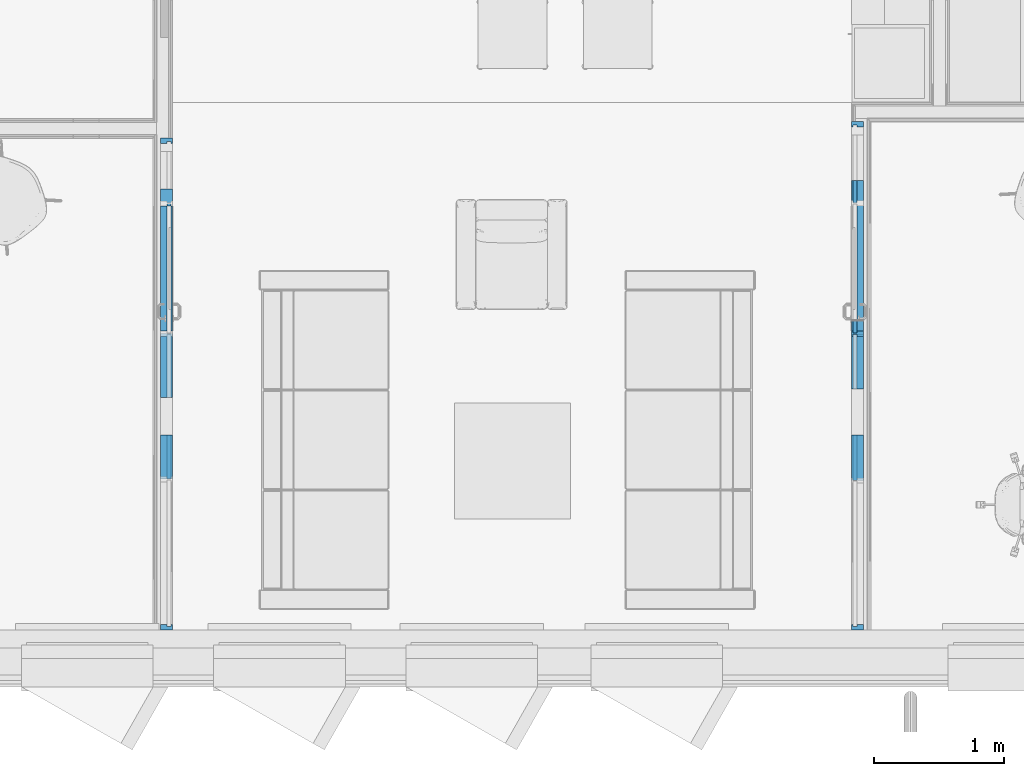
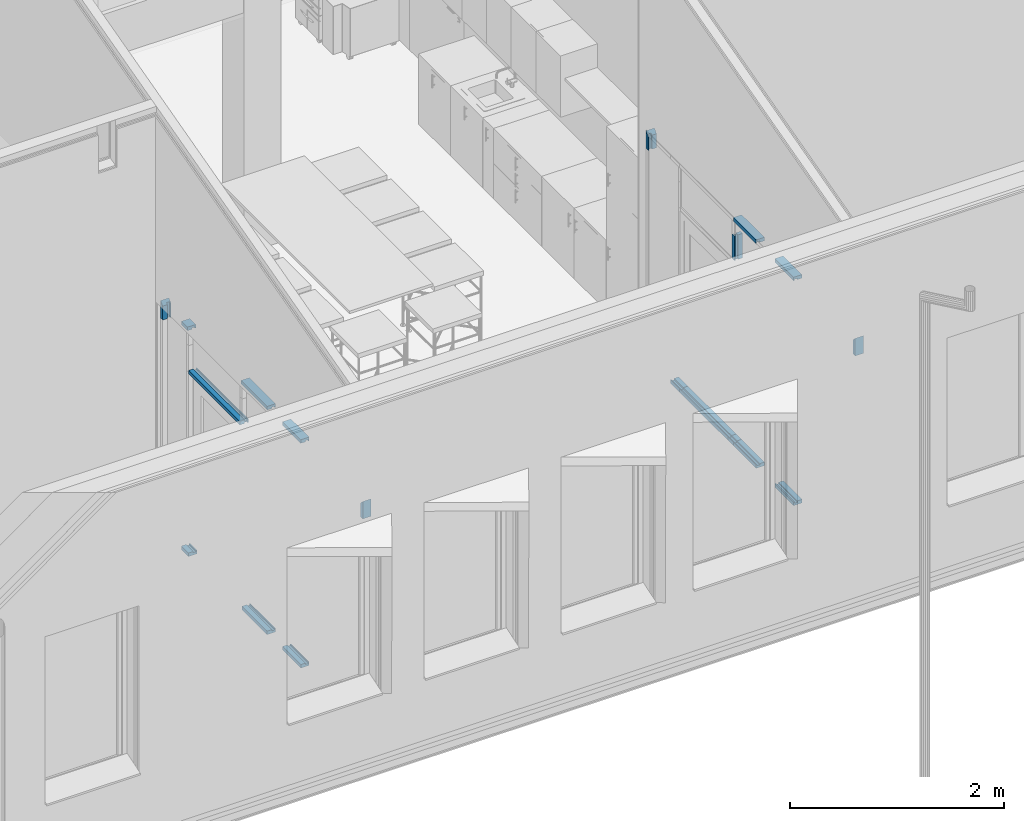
# One storey, part 33 of 153: 19 members, 2 elements without a shape of their own.
"""IFC2X3 building model written with IfcOpenShell, lengths in millimetres."""

from ifc_helpers import new_model, entity, si_unit, converted_unit, derived_unit, money_unit, direction, frame, origin_with_axes, place, context, subcontext, project, spatial, faceted_brep, material, type_object, element, aggregate, save


model = new_model("IFC2X3")

# Units and contexts
model_context = context("Model", 3, precision=0.01, world=origin_with_axes(), true_north=direction((0.0, 1.0)))
body_context = subcontext(model_context, "Body", "Model", "MODEL_VIEW")
ifc_project = project(units=[si_unit("LENGTHUNIT", "METRE", prefix="MILLI"), si_unit("AREAUNIT", "SQUARE_METRE"), si_unit("VOLUMEUNIT", "CUBIC_METRE"), converted_unit("PLANEANGLEUNIT", "DEGREE", entity("IfcPlaneAngleMeasure", 0.0174532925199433), si_unit("PLANEANGLEUNIT", "RADIAN"), dimensions=[0, 0, 0, 0, 0, 0, 0]), money_unit("EUR"), converted_unit("TIMEUNIT", "Year", entity("IfcTimeMeasure", 31557600.0), si_unit("TIMEUNIT", "SECOND"), dimensions=[0, 0, 1, 0, 0, 0, 0]), si_unit("MASSUNIT", "GRAM", prefix="KILO"), si_unit("THERMODYNAMICTEMPERATUREUNIT", "DEGREE_CELSIUS"), si_unit("LUMINOUSINTENSITYUNIT", "LUMEN"), si_unit("ENERGYUNIT", "JOULE", prefix="MEGA"), derived_unit("THERMALCONDUCTANCEUNIT", [(si_unit("POWERUNIT", "WATT"), 1), (si_unit("LENGTHUNIT", "METRE"), -1), (si_unit("THERMODYNAMICTEMPERATUREUNIT", "KELVIN"), -1)]), derived_unit("SPECIFICHEATCAPACITYUNIT", [(si_unit("ENERGYUNIT", "JOULE"), 1), (si_unit("MASSUNIT", "GRAM", prefix="KILO"), -1), (si_unit("THERMODYNAMICTEMPERATUREUNIT", "KELVIN"), -1)]), derived_unit("MASSDENSITYUNIT", [(si_unit("MASSUNIT", "GRAM", prefix="KILO"), 1), (si_unit("VOLUMEUNIT", "CUBIC_METRE"), -1)])], contexts=[model_context])

# Site, building, storey
site_placement = place(None, frame((0.0, 0.0, 8650.0), z_axis=(0.0, 0.0, 1.0), x_axis=(1.0, 0.0, 0.0)))
site = spatial("IfcSite", under=ifc_project, at=site_placement, Name="43301:001:0844", CompositionType="ELEMENT")
building_placement = place(site_placement, origin_with_axes())
building = spatial("IfcBuilding", under=site, at=building_placement, Name="Kuressaare Ametikooli tuulikute mehaanikute õppekorpus", CompositionType="ELEMENT")
storey_placement = place(building_placement, frame((0.0, 0.0, 4100.0), z_axis=(0.0, 0.0, 1.0), x_axis=(1.0, 0.0, 0.0)))
storey = spatial("IfcBuildingStorey", under=building, at=storey_placement, Name="2.korrus", CompositionType="ELEMENT", Elevation=4100.0)

# Curtain wall, members
curtain_wall_type = type_object("IfcCurtainWallType", Name="Curtain Wall Type", PredefinedType="NOTDEFINED")
curtain_wall_1_placement = place(storey_placement, frame((122879.3962682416, 12626.24529387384, 0.0), z_axis=(0.0, 0.0, 1.0), x_axis=(1.0, 0.0, 0.0)))
curtain_wall_1 = element("IfcCurtainWall", 1, at=curtain_wall_1_placement, inside=storey, type_object=curtain_wall_type, Name="PKF-3")
ifc_material = material(Name="Aluminium")
member_type_1 = type_object("IfcMemberType", Name="Boundary Frame 40 x 90", PredefinedType="NOTDEFINED")
member_1_placement = place(curtain_wall_1_placement, frame((0.0, -2345.882436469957, 2600.0), z_axis=(0.0, 1.0, 0.0), x_axis=(0.0, 0.0, 1.0)))
member_1 = element("IfcMember", 2, at=member_1_placement, type_object=member_type_1, material=ifc_material, context=body_context, shape_type="Brep", body=[
    faceted_brep([(-25.00000000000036, -15.00000000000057, 340.8978987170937), (-40.00000000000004, -15.00000000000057, 340.8978987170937), (-40.00000000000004, -64.99999999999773, 340.8978987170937), (0.0, -64.99999999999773, 340.8978987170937), (0.0, 0.0, 340.8978987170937), (0.0, 25.00000000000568, 340.8978987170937), (-40.00000000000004, 25.00000000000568, 340.8978987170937), (-40.00000000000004, 15.00000000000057, 340.8978987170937), (-25.00000000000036, 15.00000000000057, 340.8978987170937), (-25.00000000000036, -15.00000000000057, 0.0), (-40.00000000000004, -15.00000000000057, 0.0), (-40.00000000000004, -64.99999999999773, 0.0), (0.0, -64.99999999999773, 0.0), (0.0, 0.0, 0.0), (0.0, 25.00000000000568, 0.0), (-40.00000000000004, 25.00000000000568, 0.0), (-40.00000000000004, 15.00000000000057, 0.0), (-25.00000000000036, 15.00000000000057, 0.0)], [[[0, 1, 2, 3, 4, 5, 6, 7, 8]], [[0, 9, 10, 1]], [[10, 11, 2, 1]], [[11, 12, 3, 2]], [[12, 13, 4, 3]], [[13, 14, 5, 4]], [[14, 15, 6, 5]], [[7, 6, 15, 16]], [[16, 17, 8, 7]], [[8, 17, 9, 0]], [[9, 17, 16, 15, 14, 13, 12, 11, 10]]]),
])
member_2_placement = place(curtain_wall_1_placement, frame((0.0, -229.3563835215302, 2600.0), z_axis=(0.0, 1.0, 0.0), x_axis=(0.0, 0.0, 1.0)))
member_2 = element("IfcMember", 3, at=member_2_placement, type_object=member_type_1, material=ifc_material, context=body_context, shape_type="Brep", body=[
    faceted_brep([(-25.00000000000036, -15.00000000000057, 111.4204929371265), (-40.00000000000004, -15.00000000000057, 111.4204929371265), (-40.00000000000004, -64.99999999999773, 111.4204929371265), (0.0, -64.99999999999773, 111.4204929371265), (0.0, 0.0, 111.4204929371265), (0.0, 25.00000000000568, 111.4204929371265), (-40.00000000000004, 25.00000000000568, 111.4204929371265), (-40.00000000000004, 15.00000000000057, 111.4204929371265), (-25.00000000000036, 15.00000000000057, 111.4204929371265), (-25.00000000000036, -15.00000000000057, 0.0), (-40.00000000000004, -15.00000000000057, 0.0), (-40.00000000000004, -64.99999999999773, 0.0), (0.0, -64.99999999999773, 0.0), (0.0, 0.0, 0.0), (0.0, 25.00000000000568, 0.0), (-40.00000000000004, 25.00000000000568, 0.0), (-40.00000000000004, 15.00000000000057, 0.0), (-25.00000000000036, 15.00000000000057, 0.0)], [[[0, 1, 2, 3, 4, 5, 6, 7, 8]], [[0, 9, 10, 1]], [[10, 11, 2, 1]], [[11, 12, 3, 2]], [[12, 13, 4, 3]], [[13, 14, 5, 4]], [[14, 15, 6, 5]], [[7, 6, 15, 16]], [[16, 17, 8, 7]], [[8, 17, 9, 0]], [[9, 17, 16, 15, 14, 13, 12, 11, 10]]]),
])
member_3_placement = place(curtain_wall_1_placement, frame((0.0, -3502.406722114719, 2600.0), z_axis=(0.0, -5.219556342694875e-08, -0.9999999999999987), x_axis=(0.0, 0.9999999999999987, -5.219556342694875e-08)))
member_3 = element("IfcMember", 4, at=member_3_placement, type_object=member_type_1, material=ifc_material, context=body_context, shape_type="Brep", body=[
    faceted_brep([(25.00001043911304, -15.00000000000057, 199.9999997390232), (25.00001043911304, 15.00000000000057, 199.9999997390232), (40.00001043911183, 15.00000000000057, 199.9999989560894), (40.00001043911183, 25.00000000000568, 199.9999989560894), (1.043911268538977e-05, 25.00000000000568, 200.0000010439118), (1.043911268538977e-05, 0.0, 200.0000010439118), (1.043911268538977e-05, -64.99999999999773, 200.0000010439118), (40.00001043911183, -64.99999999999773, 199.9999989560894), (40.00001043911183, -15.00000000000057, 199.9999989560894), (25.000001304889, -15.00000000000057, 24.99999739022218), (25.000001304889, 15.00000000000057, 24.99999739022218), (40.00000208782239, 15.00000000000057, 39.99999582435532), (40.00000208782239, 25.00000000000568, 39.99999582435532), (0.0, 25.00000000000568, 0.0), (0.0, 0.0, 0.0), (0.0, -64.99999999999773, 0.0), (40.00000208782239, -64.99999999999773, 39.99999582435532), (40.00000208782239, -15.00000000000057, 39.99999582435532)], [[[0, 1, 2, 3, 4, 5, 6, 7, 8]], [[1, 0, 9, 10]], [[11, 2, 1, 10]], [[2, 11, 12, 3]], [[4, 3, 12, 13]], [[5, 4, 13, 14]], [[6, 5, 14, 15]], [[7, 6, 15, 16]], [[17, 8, 7, 16]], [[0, 8, 17, 9]], [[9, 17, 16, 15, 14, 13, 12, 11, 10]]]),
])
member_4_placement = place(curtain_wall_1_placement, frame((0.0, 271.6905699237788, 2400.0), z_axis=(0.0, 3.945222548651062e-07, 0.9999999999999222), x_axis=(0.0, -0.9999999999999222, 3.945222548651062e-07)))
member_4 = element("IfcMember", 5, at=member_4_placement, type_object=member_type_1, material=ifc_material, context=body_context, shape_type="Brep", body=[
    faceted_brep([(25.00006904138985, -15.00000000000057, 174.9999802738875), (25.00006904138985, 15.00000000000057, 174.9999802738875), (40.00006312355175, 15.00000000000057, 159.9999684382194), (40.00006312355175, 25.00000000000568, 159.9999684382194), (7.890445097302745e-05, 25.00000000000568, 200.0000000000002), (7.890445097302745e-05, 0.0, 200.0000000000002), (7.890445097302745e-05, -64.99999999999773, 200.0000000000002), (40.00006312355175, -64.99999999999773, 159.9999684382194), (40.00006312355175, -15.00000000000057, 159.9999684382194), (24.9999999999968, -15.00000000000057, -1.77535008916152e-05), (24.9999999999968, 15.00000000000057, -1.77535008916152e-05), (39.99999999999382, 15.00000000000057, -2.367133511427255e-05), (39.99999999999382, 25.00000000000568, -2.367133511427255e-05), (0.0, 25.00000000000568, -7.890444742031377e-06), (0.0, 0.0, -7.890444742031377e-06), (0.0, -64.99999999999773, -7.890444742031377e-06), (39.99999999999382, -64.99999999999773, -2.367133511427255e-05), (39.99999999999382, -15.00000000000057, -2.367133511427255e-05)], [[[0, 1, 2, 3, 4, 5, 6, 7, 8]], [[1, 0, 9, 10]], [[11, 2, 1, 10]], [[2, 11, 12, 3]], [[13, 4, 3, 12]], [[14, 5, 4, 13]], [[15, 6, 5, 14]], [[16, 7, 6, 15]], [[17, 8, 7, 16]], [[0, 8, 17, 9]], [[9, 17, 16, 15, 14, 13, 12, 11, 10]]]),
])
member_5_placement = place(curtain_wall_1_placement, frame((0.0, -229.3563716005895, 0.0), z_axis=(0.0, 1.0, 0.0), x_axis=(0.0, 0.0, 1.0)))
member_5 = element("IfcMember", 6, at=member_5_placement, type_object=member_type_1, material=ifc_material, context=body_context, shape_type="Brep", body=[
    faceted_brep([(25.00000000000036, -15.00000000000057, 111.4204810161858), (25.00000000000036, 15.00000000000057, 111.4204810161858), (40.00000000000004, 15.00000000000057, 111.4204810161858), (40.00000000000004, 25.00000000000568, 111.4204810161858), (0.0, 25.00000000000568, 111.4204810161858), (0.0, 0.0, 111.4204810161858), (0.0, -64.99999999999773, 111.4204810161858), (40.00000000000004, -64.99999999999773, 111.4204810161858), (40.00000000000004, -15.00000000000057, 111.4204810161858), (25.00000000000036, -15.00000000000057, -19.99999999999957), (25.00000000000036, 15.00000000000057, -19.99999999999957), (40.00000000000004, 15.00000000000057, -19.99999999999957), (40.00000000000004, 25.00000000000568, -19.99999999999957), (0.0, 25.00000000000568, -19.99999999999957), (0.0, 0.0, -19.99999999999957), (0.0, -64.99999999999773, -19.99999999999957), (40.00000000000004, -64.99999999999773, -19.99999999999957), (40.00000000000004, -15.00000000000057, -19.99999999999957)], [[[0, 1, 2, 3, 4, 5, 6, 7, 8]], [[1, 0, 9, 10]], [[11, 2, 1, 10]], [[2, 11, 12, 3]], [[13, 4, 3, 12]], [[14, 5, 4, 13]], [[15, 6, 5, 14]], [[16, 7, 6, 15]], [[17, 8, 7, 16]], [[0, 8, 17, 9]], [[9, 17, 16, 15, 14, 13, 12, 11, 10]]]),
])
member_6_placement = place(curtain_wall_1_placement, frame((0.0, -1717.935890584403, 2600.0), z_axis=(0.0, 1.0, 0.0), x_axis=(0.0, 0.0, 1.0)))
member_6 = element("IfcMember", 7, at=member_6_placement, type_object=member_type_1, material=ifc_material, context=body_context, shape_type="Brep", body=[
    faceted_brep([(-25.00000000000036, -15.00000000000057, 488.5777357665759), (-40.00000000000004, -15.00000000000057, 488.5777357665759), (-40.00000000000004, -64.99999999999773, 488.5777357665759), (0.0, -64.99999999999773, 488.5777357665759), (0.0, 0.0, 488.5777357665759), (0.0, 25.00000000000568, 488.5777357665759), (-40.00000000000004, 25.00000000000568, 488.5777357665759), (-40.00000000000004, 15.00000000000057, 488.5777357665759), (-25.00000000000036, 15.00000000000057, 488.5777357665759), (-25.00000000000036, -15.00000000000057, 0.0), (-40.00000000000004, -15.00000000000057, 0.0), (-40.00000000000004, -64.99999999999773, 0.0), (0.0, -64.99999999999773, 0.0), (0.0, 0.0, 0.0), (0.0, 25.00000000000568, 0.0), (-40.00000000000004, 25.00000000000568, 0.0), (-40.00000000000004, 15.00000000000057, 0.0), (-25.00000000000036, 15.00000000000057, 0.0)], [[[0, 1, 2, 3, 4, 5, 6, 7, 8]], [[0, 9, 10, 1]], [[10, 11, 2, 1]], [[11, 12, 3, 2]], [[12, 13, 4, 3]], [[13, 14, 5, 4]], [[14, 15, 6, 5]], [[7, 6, 15, 16]], [[16, 17, 8, 7]], [[8, 17, 9, 0]], [[9, 17, 16, 15, 14, 13, 12, 11, 10]]]),
])
member_7_placement = place(curtain_wall_1_placement, frame((0.0, -1717.935890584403, 0.0), z_axis=(0.0, 1.0, 0.0), x_axis=(0.0, 0.0, 1.0)))
member_7 = element("IfcMember", 8, at=member_7_placement, type_object=member_type_1, material=ifc_material, context=body_context, shape_type="Brep", body=[
    faceted_brep([(25.00000000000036, -15.00000000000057, 468.5777721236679), (25.00000000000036, 15.00000000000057, 468.5777721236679), (40.00000000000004, 15.00000000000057, 468.5777721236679), (40.00000000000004, 25.00000000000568, 468.5777721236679), (0.0, 25.00000000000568, 468.5777721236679), (0.0, 0.0, 468.5777721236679), (0.0, -64.99999999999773, 468.5777721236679), (40.00000000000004, -64.99999999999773, 468.5777721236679), (40.00000000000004, -15.00000000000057, 468.5777721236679), (25.00000000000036, -15.00000000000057, 0.0), (25.00000000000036, 15.00000000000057, 0.0), (40.00000000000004, 15.00000000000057, 0.0), (40.00000000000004, 25.00000000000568, 0.0), (0.0, 25.00000000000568, 0.0), (0.0, 0.0, 0.0), (0.0, -64.99999999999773, 0.0), (40.00000000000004, -64.99999999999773, 0.0), (40.00000000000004, -15.00000000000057, 0.0)], [[[0, 1, 2, 3, 4, 5, 6, 7, 8]], [[1, 0, 9, 10]], [[11, 2, 1, 10]], [[2, 11, 12, 3]], [[13, 4, 3, 12]], [[14, 5, 4, 13]], [[15, 6, 5, 14]], [[16, 7, 6, 15]], [[17, 8, 7, 16]], [[0, 8, 17, 9]], [[9, 17, 16, 15, 14, 13, 12, 11, 10]]]),
])
member_8_placement = place(curtain_wall_1_placement, frame((0.0, -2345.88214639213, 0.0), z_axis=(0.0, 1.0, 0.0), x_axis=(0.0, 0.0, 1.0)))
member_8 = element("IfcMember", 9, at=member_8_placement, type_object=member_type_1, material=ifc_material, context=body_context, shape_type="Brep", body=[
    faceted_brep([(25.00000000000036, -15.00000000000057, 340.897608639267), (25.00000000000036, 15.00000000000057, 340.897608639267), (40.00000000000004, 15.00000000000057, 340.897608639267), (40.00000000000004, 25.00000000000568, 340.897608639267), (0.0, 25.00000000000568, 340.897608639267), (0.0, 0.0, 340.897608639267), (0.0, -64.99999999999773, 340.897608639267), (40.00000000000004, -64.99999999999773, 340.897608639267), (40.00000000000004, -15.00000000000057, 340.897608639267), (25.00000000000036, -15.00000000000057, 0.0), (25.00000000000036, 15.00000000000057, 0.0), (40.00000000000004, 15.00000000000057, 0.0), (40.00000000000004, 25.00000000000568, 0.0), (0.0, 25.00000000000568, 0.0), (0.0, 0.0, 0.0), (0.0, -64.99999999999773, 0.0), (40.00000000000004, -64.99999999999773, 0.0), (40.00000000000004, -15.00000000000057, 0.0)], [[[0, 1, 2, 3, 4, 5, 6, 7, 8]], [[1, 0, 9, 10]], [[11, 2, 1, 10]], [[2, 11, 12, 3]], [[13, 4, 3, 12]], [[14, 5, 4, 13]], [[15, 6, 5, 14]], [[16, 7, 6, 15]], [[17, 8, 7, 16]], [[0, 8, 17, 9]], [[9, 17, 16, 15, 14, 13, 12, 11, 10]]]),
])

curtain_wall_2_placement = place(storey_placement, frame((128142.9907946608, 12695.39546179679, 0.0), z_axis=(0.0, 0.0, 1.0), x_axis=(1.0, 0.0, 0.0)))
curtain_wall_2 = element("IfcCurtainWall", 10, at=curtain_wall_2_placement, inside=storey, type_object=curtain_wall_type, Name="PKF-4")
member_9_placement = place(curtain_wall_2_placement, frame((0.0, -297.50999589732, 0.0), z_axis=(0.0, 1.0, 0.0), x_axis=(0.0, 0.0, 1.0)))
member_9 = element("IfcMember", 11, at=member_9_placement, type_object=member_type_1, material=ifc_material, context=body_context, shape_type="Brep", body=[
    faceted_brep([(25.00000000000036, 14.99999999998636, 173.4794057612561), (40.00000000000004, 14.99999999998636, 173.4794057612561), (40.00000000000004, 64.99999999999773, 173.4794057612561), (0.0, 64.99999999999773, 173.4794057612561), (0.0, 0.0, 173.4794057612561), (0.0, -25.00000000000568, 173.4794057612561), (40.00000000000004, -25.00000000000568, 173.4794057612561), (40.00000000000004, -14.99999999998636, 173.4794057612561), (25.00000000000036, -14.99999999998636, 173.4794057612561), (25.00000000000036, 14.99999999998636, 0.0), (40.00000000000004, 14.99999999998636, 0.0), (40.00000000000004, 64.99999999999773, 0.0), (0.0, 64.99999999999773, 0.0), (0.0, 0.0, 0.0), (0.0, -25.00000000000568, 0.0), (40.00000000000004, -25.00000000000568, 0.0), (40.00000000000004, -14.99999999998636, 0.0), (25.00000000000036, -14.99999999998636, 0.0)], [[[0, 1, 2, 3, 4, 5, 6, 7, 8]], [[0, 9, 10, 1]], [[10, 11, 2, 1]], [[11, 12, 3, 2]], [[12, 13, 4, 3]], [[13, 14, 5, 4]], [[14, 15, 6, 5]], [[7, 6, 15, 16]], [[16, 17, 8, 7]], [[8, 17, 9, 0]], [[9, 17, 16, 15, 14, 13, 12, 11, 10]]]),
])
member_10_placement = place(curtain_wall_2_placement, frame((0.0, -2425.438877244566, 2600.0), z_axis=(0.0, 1.0, 0.0), x_axis=(0.0, 0.0, 1.0)))
member_10 = element("IfcMember", 12, at=member_10_placement, type_object=member_type_1, material=ifc_material, context=body_context, shape_type="Brep", body=[
    faceted_brep([(-25.00000000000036, 14.99999999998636, 351.304171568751), (-25.00000000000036, -14.99999999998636, 351.304171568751), (-40.00000000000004, -14.99999999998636, 351.304171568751), (-40.00000000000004, -25.00000000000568, 351.304171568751), (0.0, -25.00000000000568, 351.304171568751), (0.0, 0.0, 351.304171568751), (0.0, 64.99999999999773, 351.304171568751), (-40.00000000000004, 64.99999999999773, 351.304171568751), (-40.00000000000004, 14.99999999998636, 351.304171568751), (-25.00000000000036, 14.99999999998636, 0.0), (-25.00000000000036, -14.99999999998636, 0.0), (-40.00000000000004, -14.99999999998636, 0.0), (-40.00000000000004, -25.00000000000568, 0.0), (0.0, -25.00000000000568, 0.0), (0.0, 0.0, 0.0), (0.0, 64.99999999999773, 0.0), (-40.00000000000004, 64.99999999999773, 0.0), (-40.00000000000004, 14.99999999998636, 0.0)], [[[0, 1, 2, 3, 4, 5, 6, 7, 8]], [[1, 0, 9, 10]], [[11, 2, 1, 10]], [[2, 11, 12, 3]], [[13, 4, 3, 12]], [[14, 5, 4, 13]], [[15, 6, 5, 14]], [[16, 7, 6, 15]], [[17, 8, 7, 16]], [[0, 8, 17, 9]], [[9, 17, 16, 15, 14, 13, 12, 11, 10]]]),
])
member_11_placement = place(curtain_wall_2_placement, frame((0.0, -3571.556869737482, 2600.0), z_axis=(0.0, -1.536965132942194e-07, -0.9999999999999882), x_axis=(0.0, 0.9999999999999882, -1.536965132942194e-07)))
member_11 = element("IfcMember", 13, at=member_11_placement, type_object=member_type_1, material=ifc_material, context=body_context, shape_type="Brep", body=[
    faceted_brep([(25.00003073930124, 14.99999999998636, 199.9999992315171), (40.00003073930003, 14.99999999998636, 199.9999969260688), (40.00003073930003, 64.99999999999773, 199.9999969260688), (3.073930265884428e-05, 64.99999999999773, 200.0000030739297), (3.073930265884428e-05, 0.0, 200.0000030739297), (3.073930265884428e-05, -25.00000000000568, 200.0000030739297), (40.00003073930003, -25.00000000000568, 199.9999969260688), (40.00003073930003, -14.99999999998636, 199.9999969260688), (25.00003073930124, -14.99999999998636, 199.9999992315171), (25.00000384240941, 14.99999999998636, 24.99999231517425), (40.00000614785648, 14.99999999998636, 39.99998770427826), (40.00000614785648, 64.99999999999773, 39.99998770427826), (0.0, 64.99999999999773, 0.0), (0.0, 0.0, 0.0), (0.0, -25.00000000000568, 0.0), (40.00000614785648, -25.00000000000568, 39.99998770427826), (40.00000614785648, -14.99999999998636, 39.99998770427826), (25.00000384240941, -14.99999999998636, 24.99999231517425)], [[[0, 1, 2, 3, 4, 5, 6, 7, 8]], [[0, 9, 10, 1]], [[10, 11, 2, 1]], [[2, 11, 12, 3]], [[3, 12, 13, 4]], [[4, 13, 14, 5]], [[5, 14, 15, 6]], [[7, 6, 15, 16]], [[16, 17, 8, 7]], [[8, 17, 9, 0]], [[9, 17, 16, 15, 14, 13, 12, 11, 10]]]),
])
member_12_placement = place(curtain_wall_2_placement, frame((0.0, 328.6513387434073, 2400.0), z_axis=(0.0, 3.8457136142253e-07, 0.9999999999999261), x_axis=(0.0, -0.9999999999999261, 3.8457136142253e-07)))
member_12 = element("IfcMember", 14, at=member_12_placement, type_object=member_type_1, material=ifc_material, context=body_context, shape_type="Brep", body=[
    faceted_brep([(25.00006729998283, 14.99999999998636, 174.9999807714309), (40.00006153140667, 14.99999999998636, 159.9999692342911), (40.00006153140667, 64.99999999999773, 159.9999692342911), (7.691427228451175e-05, 64.99999999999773, 200.0000000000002), (7.691427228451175e-05, 0.0, 200.0000000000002), (7.691427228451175e-05, -25.00000000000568, 200.0000000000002), (40.00006153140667, -25.00000000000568, 159.9999692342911), (40.00006153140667, -14.99999999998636, 159.9999692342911), (25.00006729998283, -14.99999999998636, 174.9999807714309), (24.99999999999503, 14.99999999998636, -1.730571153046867e-05), (39.99999999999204, 14.99999999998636, -2.307428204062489e-05), (39.99999999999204, 64.99999999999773, -2.307428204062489e-05), (0.0, 64.99999999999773, -7.691427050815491e-06), (0.0, 0.0, -7.691427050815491e-06), (0.0, -25.00000000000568, -7.691427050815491e-06), (39.99999999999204, -25.00000000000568, -2.307428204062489e-05), (39.99999999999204, -14.99999999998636, -2.307428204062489e-05), (24.99999999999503, -14.99999999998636, -1.730571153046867e-05)], [[[0, 1, 2, 3, 4, 5, 6, 7, 8]], [[0, 9, 10, 1]], [[10, 11, 2, 1]], [[11, 12, 3, 2]], [[12, 13, 4, 3]], [[13, 14, 5, 4]], [[14, 15, 6, 5]], [[7, 6, 15, 16]], [[16, 17, 8, 7]], [[8, 17, 9, 0]], [[9, 17, 16, 15, 14, 13, 12, 11, 10]]]),
])
member_13_placement = place(curtain_wall_2_placement, frame((0.0, -1299.320907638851, 0.0), z_axis=(0.0, 1.0, 0.0), x_axis=(0.0, 0.0, 1.0)))
member_13 = element("IfcMember", 15, at=member_13_placement, type_object=member_type_1, material=ifc_material, context=body_context, shape_type="Brep", body=[
    faceted_brep([(25.00000000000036, 14.99999999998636, 101.870893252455), (40.00000000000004, 14.99999999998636, 101.870893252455), (40.00000000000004, 64.99999999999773, 101.870893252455), (0.0, 64.99999999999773, 101.870893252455), (0.0, 0.0, 101.870893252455), (0.0, -25.00000000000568, 101.870893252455), (40.00000000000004, -25.00000000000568, 101.870893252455), (40.00000000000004, -14.99999999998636, 101.870893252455), (25.00000000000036, -14.99999999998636, 101.870893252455), (25.00000000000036, 14.99999999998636, 0.0), (40.00000000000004, 14.99999999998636, 0.0), (40.00000000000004, 64.99999999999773, 0.0), (0.0, 64.99999999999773, 0.0), (0.0, 0.0, 0.0), (0.0, -25.00000000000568, 0.0), (40.00000000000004, -25.00000000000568, 0.0), (40.00000000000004, -14.99999999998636, 0.0), (25.00000000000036, -14.99999999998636, 0.0)], [[[0, 1, 2, 3, 4, 5, 6, 7, 8]], [[0, 9, 10, 1]], [[10, 11, 2, 1]], [[11, 12, 3, 2]], [[12, 13, 4, 3]], [[13, 14, 5, 4]], [[14, 15, 6, 5]], [[7, 6, 15, 16]], [[16, 17, 8, 7]], [[8, 17, 9, 0]], [[9, 17, 16, 15, 14, 13, 12, 11, 10]]]),
])
member_14_placement = place(curtain_wall_2_placement, frame((0.0, -2425.438877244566, 0.0), z_axis=(0.0, 1.0, 0.0), x_axis=(0.0, 0.0, 1.0)))
member_14 = element("IfcMember", 16, at=member_14_placement, type_object=member_type_1, material=ifc_material, context=body_context, shape_type="Brep", body=[
    faceted_brep([(25.00000000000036, 14.99999999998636, 351.304171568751), (40.00000000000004, 14.99999999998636, 351.304171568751), (40.00000000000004, 64.99999999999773, 351.304171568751), (0.0, 64.99999999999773, 351.304171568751), (0.0, 0.0, 351.304171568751), (0.0, -25.00000000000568, 351.304171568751), (40.00000000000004, -25.00000000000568, 351.304171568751), (40.00000000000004, -14.99999999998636, 351.304171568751), (25.00000000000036, -14.99999999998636, 351.304171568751), (25.00000000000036, 14.99999999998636, 0.0), (40.00000000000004, 14.99999999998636, 0.0), (40.00000000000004, 64.99999999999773, 0.0), (0.0, 64.99999999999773, 0.0), (0.0, 0.0, 0.0), (0.0, -25.00000000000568, 0.0), (40.00000000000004, -25.00000000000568, 0.0), (40.00000000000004, -14.99999999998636, 0.0), (25.00000000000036, -14.99999999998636, 0.0)], [[[0, 1, 2, 3, 4, 5, 6, 7, 8]], [[0, 9, 10, 1]], [[10, 11, 2, 1]], [[11, 12, 3, 2]], [[12, 13, 4, 3]], [[13, 14, 5, 4]], [[14, 15, 6, 5]], [[7, 6, 15, 16]], [[16, 17, 8, 7]], [[8, 17, 9, 0]], [[9, 17, 16, 15, 14, 13, 12, 11, 10]]]),
])
member_15_placement = place(curtain_wall_2_placement, frame((0.0, -1196.397707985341, 0.0), z_axis=(0.0, 1.0, 0.0), x_axis=(0.0, 0.0, 1.0)))
member_15 = element("IfcMember", 17, at=member_15_placement, type_object=member_type_1, material=ifc_material, context=body_context, shape_type="Brep", body=[
    faceted_brep([(25.00000000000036, 14.99999999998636, 898.8877120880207), (40.00000000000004, 14.99999999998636, 898.8877120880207), (40.00000000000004, 64.99999999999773, 898.8877120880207), (0.0, 64.99999999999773, 898.8877120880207), (0.0, 0.0, 898.8877120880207), (0.0, -25.00000000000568, 898.8877120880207), (40.00000000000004, -25.00000000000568, 898.8877120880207), (40.00000000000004, -14.99999999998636, 898.8877120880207), (25.00000000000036, -14.99999999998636, 898.8877120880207), (25.00000000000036, 14.99999999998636, 0.0), (40.00000000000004, 14.99999999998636, 0.0), (40.00000000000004, 64.99999999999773, 0.0), (0.0, 64.99999999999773, 0.0), (0.0, 0.0, 0.0), (0.0, -25.00000000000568, 0.0), (40.00000000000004, -25.00000000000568, 0.0), (40.00000000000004, -14.99999999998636, 0.0), (25.00000000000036, -14.99999999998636, 0.0)], [[[0, 1, 2, 3, 4, 5, 6, 7, 8]], [[0, 9, 10, 1]], [[10, 11, 2, 1]], [[11, 12, 3, 2]], [[12, 13, 4, 3]], [[13, 14, 5, 4]], [[14, 15, 6, 5]], [[7, 6, 15, 16]], [[16, 17, 8, 7]], [[8, 17, 9, 0]], [[9, 17, 16, 15, 14, 13, 12, 11, 10]]]),
])
member_16_placement = place(curtain_wall_2_placement, frame((0.0, -1724.030590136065, 0.0), z_axis=(0.0, 1.0, 0.0), x_axis=(0.0, 0.0, 1.0)))
member_16 = element("IfcMember", 18, at=member_16_placement, type_object=member_type_1, material=ifc_material, context=body_context, shape_type="Brep", body=[
    faceted_brep([(25.00000000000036, 14.99999999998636, 424.7096824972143), (40.00000000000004, 14.99999999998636, 424.7096824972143), (40.00000000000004, 64.99999999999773, 424.7096824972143), (0.0, 64.99999999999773, 424.7096824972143), (0.0, 0.0, 424.7096824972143), (0.0, -25.00000000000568, 424.7096824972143), (40.00000000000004, -25.00000000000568, 424.7096824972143), (40.00000000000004, -14.99999999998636, 424.7096824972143), (25.00000000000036, -14.99999999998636, 424.7096824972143), (25.00000000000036, 14.99999999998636, 0.0), (40.00000000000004, 14.99999999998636, 0.0), (40.00000000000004, 64.99999999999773, 0.0), (0.0, 64.99999999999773, 0.0), (0.0, 0.0, 0.0), (0.0, -25.00000000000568, 0.0), (40.00000000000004, -25.00000000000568, 0.0), (40.00000000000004, -14.99999999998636, 0.0), (25.00000000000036, -14.99999999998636, 0.0)], [[[0, 1, 2, 3, 4, 5, 6, 7, 8]], [[0, 9, 10, 1]], [[10, 11, 2, 1]], [[11, 12, 3, 2]], [[12, 13, 4, 3]], [[13, 14, 5, 4]], [[14, 15, 6, 5]], [[7, 6, 15, 16]], [[16, 17, 8, 7]], [[8, 17, 9, 0]], [[9, 17, 16, 15, 14, 13, 12, 11, 10]]]),
])
member_17_placement = place(curtain_wall_2_placement, frame((0.0, -1724.030590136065, 2600.0), z_axis=(0.0, 1.0, 0.0), x_axis=(0.0, 0.0, 1.0)))
member_17 = element("IfcMember", 19, at=member_17_placement, type_object=member_type_1, material=ifc_material, context=body_context, shape_type="Brep", body=[
    faceted_brep([(-25.00000000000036, 14.99999999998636, 424.7096101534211), (-25.00000000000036, -14.99999999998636, 424.7096101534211), (-40.00000000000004, -14.99999999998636, 424.7096101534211), (-40.00000000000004, -25.00000000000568, 424.7096101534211), (0.0, -25.00000000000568, 424.7096101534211), (0.0, 0.0, 424.7096101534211), (0.0, 64.99999999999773, 424.7096101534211), (-40.00000000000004, 64.99999999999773, 424.7096101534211), (-40.00000000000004, 14.99999999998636, 424.7096101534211), (-25.00000000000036, 14.99999999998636, 0.0), (-25.00000000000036, -14.99999999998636, 0.0), (-40.00000000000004, -14.99999999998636, 0.0), (-40.00000000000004, -25.00000000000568, 0.0), (0.0, -25.00000000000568, 0.0), (0.0, 0.0, 0.0), (0.0, 64.99999999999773, 0.0), (-40.00000000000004, 64.99999999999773, 0.0), (-40.00000000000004, 14.99999999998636, 0.0)], [[[0, 1, 2, 3, 4, 5, 6, 7, 8]], [[1, 0, 9, 10]], [[11, 2, 1, 10]], [[2, 11, 12, 3]], [[13, 4, 3, 12]], [[14, 5, 4, 13]], [[15, 6, 5, 14]], [[16, 7, 6, 15]], [[17, 8, 7, 16]], [[0, 8, 17, 9]], [[9, 17, 16, 15, 14, 13, 12, 11, 10]]]),
])
member_type_2 = type_object("IfcMemberType", Name="Mullion Frame 40 x 90", PredefinedType="NOTDEFINED")
member_18_placement = place(curtain_wall_2_placement, frame((0.0, -1299.320943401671, 2099.999978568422), z_axis=(0.0, -2.259539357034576e-08, 0.9999999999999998), x_axis=(0.0, -0.9999999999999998, -2.259539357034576e-08)))
member_18 = element("IfcMember", 20, at=member_18_placement, type_object=member_type_2, material=ifc_material, context=body_context, shape_type="Brep", body=[
    faceted_brep([(-5.000006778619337, 14.99999999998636, 300.0000231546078), (-5.000006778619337, -14.99999999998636, 300.0000231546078), (-20.00000677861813, -14.99999999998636, 300.0000228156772), (-20.00000677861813, -25.00000000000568, 300.0000228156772), (19.99999322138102, -25.00000000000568, 300.0000237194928), (19.99999322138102, -14.99999999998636, 300.0000237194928), (4.999993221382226, -14.99999999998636, 300.0000233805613), (4.999993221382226, 14.99999999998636, 300.0000233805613), (19.99999322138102, 14.99999999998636, 300.0000237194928), (19.99999322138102, 64.99999999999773, 300.0000237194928), (-20.00000677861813, 64.99999999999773, 300.0000228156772), (-20.00000677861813, 14.99999999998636, 300.0000228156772), (-5.000000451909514, 14.99999999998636, 20.00000022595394), (-5.000000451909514, -14.99999999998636, 19.99999954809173), (-20.00000045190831, -14.99999999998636, 19.99999920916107), (-20.00000045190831, -25.00000000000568, 19.99999898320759), (19.99999954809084, -25.00000000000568, 19.99999988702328), (19.99999954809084, -14.99999999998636, 20.00000011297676), (4.999999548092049, -14.99999999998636, 19.99999977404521), (4.999999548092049, 14.99999999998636, 20.00000045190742), (19.99999954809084, 14.99999999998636, 20.00000079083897), (19.99999954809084, 64.99999999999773, 20.00000192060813), (-20.00000045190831, 64.99999999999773, 20.00000101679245), (-20.00000045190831, 14.99999999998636, 19.99999988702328)], [[[0, 1, 2, 3, 4, 5, 6, 7, 8, 9, 10, 11]], [[0, 12, 13, 1]], [[1, 13, 14, 2]], [[14, 15, 3, 2]], [[4, 3, 15, 16]], [[17, 5, 4, 16]], [[5, 17, 18, 6]], [[7, 6, 18, 19]], [[8, 7, 19, 20]], [[8, 20, 21, 9]], [[10, 9, 21, 22]], [[11, 10, 22, 23]], [[11, 23, 12, 0]], [[13, 12, 23, 22, 21, 20, 19, 18, 17, 16, 15, 14]]]),
])
aggregate(curtain_wall_2, [member_9, member_10, member_11, member_12, member_13, member_14, member_15, member_16, member_18, member_17])

# Member
member_type_3 = type_object("IfcMemberType", Name="Transom Frame 40 x 90", PredefinedType="NOTDEFINED")
member_19_placement = place(curtain_wall_1_placement, frame((0.0, -1229.358130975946, 2099.999978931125), z_axis=(0.0, 0.9999999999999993, 3.576275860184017e-08), x_axis=(0.0, -3.576275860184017e-08, 0.9999999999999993)))
member_19 = element("IfcMember", 21, at=member_19_placement, type_object=member_type_3, material=ifc_material, context=body_context, shape_type="Brep", body=[
    faceted_brep([(-5.000035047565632, -15.00000000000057, 980.0017483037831), (-20.0000350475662, -15.00000000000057, 980.001747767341), (-20.0000350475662, -64.99999999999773, 980.0017462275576), (19.99996495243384, -64.99999999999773, 980.0017476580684), (19.99996495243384, -15.00000000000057, 980.0017491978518), (4.999964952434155, -15.00000000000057, 980.0017486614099), (4.999964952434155, 15.00000000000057, 980.0017495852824), (19.99996495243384, 15.00000000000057, 980.0017501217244), (19.99996495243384, 25.00000000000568, 980.0017504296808), (-20.0000350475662, 25.00000000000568, 980.0017489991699), (-20.0000350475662, 15.00000000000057, 980.0017486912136), (-5.000035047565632, 15.00000000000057, 980.0017492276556), (-5.000000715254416, -15.00000000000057, 20.00000035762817), (-20.0000007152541, -15.00000000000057, 19.99999982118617), (-20.00000071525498, -64.99999999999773, 20.0000016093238), (19.99999928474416, -64.99999999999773, 20.00000303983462), (19.99999928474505, -15.00000000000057, 20.00000125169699), (4.999999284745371, -15.00000000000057, 20.00000071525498), (4.999999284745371, 15.00000000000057, 19.99999964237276), (19.99999928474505, 15.00000000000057, 20.00000017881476), (19.99999928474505, 25.00000000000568, 19.99999982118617), (-20.0000007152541, 25.00000000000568, 19.99999839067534), (-20.0000007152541, 15.00000000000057, 19.99999874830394), (-5.000000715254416, 15.00000000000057, 19.99999928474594)], [[[0, 1, 2, 3, 4, 5, 6, 7, 8, 9, 10, 11]], [[1, 0, 12, 13]], [[1, 13, 14, 2]], [[2, 14, 15, 3]], [[4, 3, 15, 16]], [[4, 16, 17, 5]], [[5, 17, 18, 6]], [[7, 6, 18, 19]], [[19, 20, 8, 7]], [[8, 20, 21, 9]], [[22, 10, 9, 21]], [[11, 10, 22, 23]], [[0, 11, 23, 12]], [[23, 22, 21, 20, 19, 18, 17, 16, 15, 14, 13, 12]]]),
])

aggregate(curtain_wall_1, [member_1, member_2, member_3, member_4, member_5, member_19, member_6, member_7, member_8])

save(model, "model.ifc")
